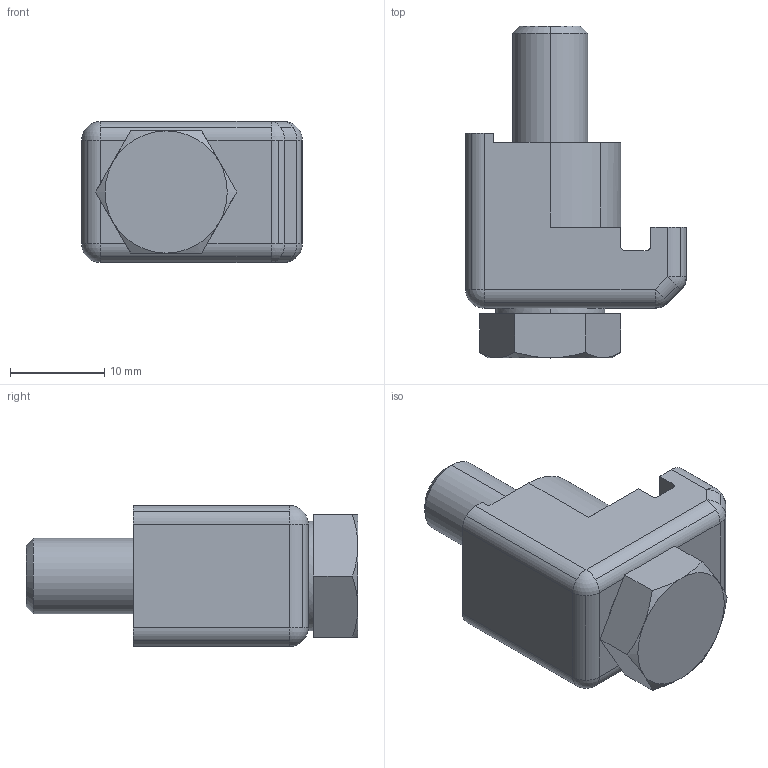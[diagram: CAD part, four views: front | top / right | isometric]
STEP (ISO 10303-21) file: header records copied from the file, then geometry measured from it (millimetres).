
FILE_DESCRIPTION((''),'2;1');
FILE_NAME('W:\212-235.stp','2004-01-08T13:31:41',('KAA'),(''),'Autodesk Inventor (R) 6.0','Autodesk Inventor (R) 6.0','');
FILE_SCHEMA(('CONFIG_CONTROL_DESIGN'));
Length unit declared in the file: millimetre
Products named in the file (1): 212-235
Bounding box: 23.5 x 35.3 x 15 mm (x, y, z)
Volume: 6097.8 mm3; surface area: 3371.8 mm2
Topology: 1 solids, 1 shells, 77 faces, 190 edges, 113 vertices
Faces by surface type: cylinder 36, plane 29, cone 6, sphere 6
Entity records: 2316 total; most frequent: DIRECTION 415, CARTESIAN_POINT 391, ORIENTED_EDGE 368, EDGE_CURVE 184, AXIS2_PLACEMENT_3D 161, VERTEX_POINT 113, VECTOR 93, LINE 93
